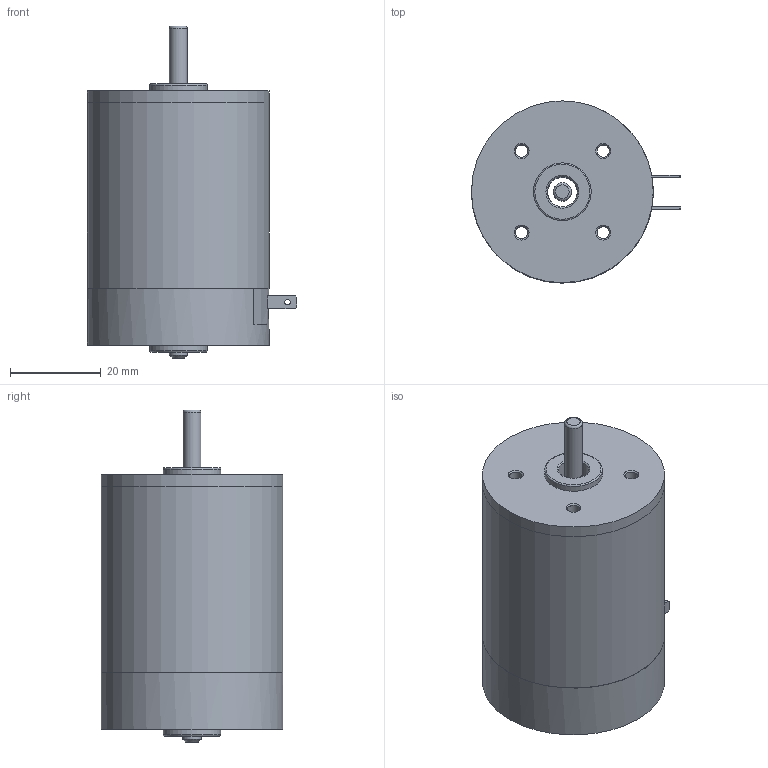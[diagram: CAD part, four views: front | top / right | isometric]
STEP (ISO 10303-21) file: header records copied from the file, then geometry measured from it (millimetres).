
FILE_DESCRIPTION(/* description */ (''),/* implementation_level */ '2;1');
FILE_NAME(/* name */ 'Z:\새 폴더\Compact Type RM4_3D\RM43ㅁBT.stp',/* time_stamp */ '2022-04-05T16:11:28+09:00',/* author */ ('umbro'),/* organization */ (''),/* preprocessor_version */ 'ST-DEVELOPER v17',/* originating_system */ 'Autodesk Inventor 2019',/* authorisation */ '');
FILE_SCHEMA (('AUTOMOTIVE_DESIGN { 1 0 10303 214 3 1 1 }'));
Length unit declared in the file: millimetre
Products named in the file (7): RM43ㅁBT; RM4TYPE_FRONT_HOUSING_; REAR_HOUSING__ASS'Y_TERMINAL; RM4TYPE_BRUSH_BRAKET_TERMINAL; RM4TYPE_REAR_HOUSING; RM4TYPE_PIPE_HOUSING_pi40XL40.8; RM43TYPE_SHAFT
Assembly tree (5 placements, depth 2):
  RM43ㅁBT
    RM4TYPE_FRONT_HOUSING_
    RM4TYPE_PIPE_HOUSING_pi40XL40.8
    RM43TYPE_SHAFT
  REAR_HOUSING__ASS'Y_TERMINAL
    RM4TYPE_BRUSH_BRAKET_TERMINAL
    RM4TYPE_REAR_HOUSING
Bounding box: 46 x 40 x 73.04 mm (x, y, z)
Volume: 20658.4 mm3; surface area: 19835.1 mm2
Topology: 5 solids, 5 shells, 76 faces, 177 edges, 116 vertices
Faces by surface type: plane 37, cylinder 24, cone 12, torus 3
Full cylindrical faces by diameter (mm): 1.2 x2, 2.7 x4, 2.8 x4, 3.7 x2, 3.969 x1, 4 x1, 6.5 x1, 6.65 x1, 12.7 x2, 36.5 x1, 40 x3
Entity records: 2566 total; most frequent: DIRECTION 436, CARTESIAN_POINT 382, ORIENTED_EDGE 354, EDGE_CURVE 177, AXIS2_PLACEMENT_3D 170, VERTEX_POINT 116, EDGE_LOOP 111, LINE 96
